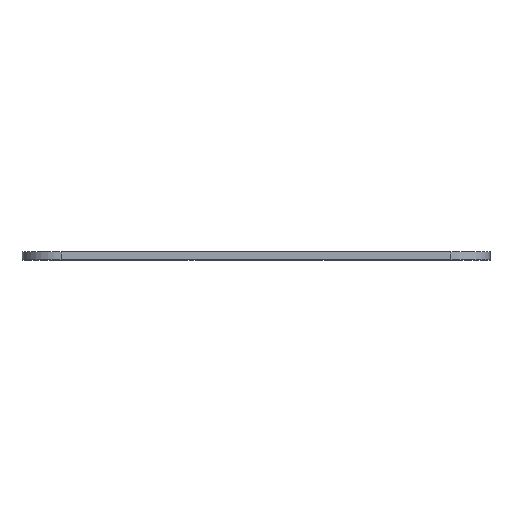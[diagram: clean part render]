
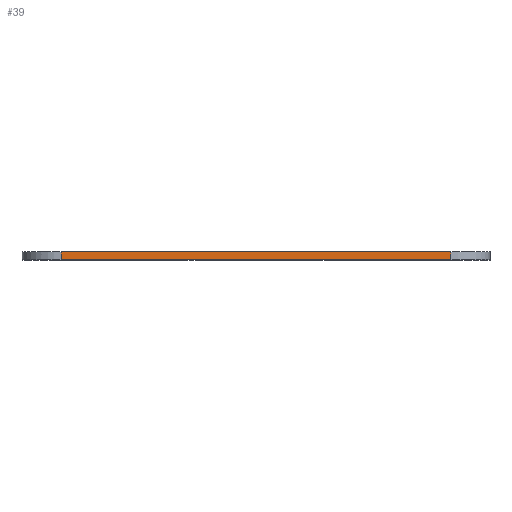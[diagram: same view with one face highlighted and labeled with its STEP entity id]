
A CAD part, top view. The second image highlights one B-rep face of the part: STEP entity #39.
In plain terms, the highlighted planar face has unit normal (0, 0, 1).
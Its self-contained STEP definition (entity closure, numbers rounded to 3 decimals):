
#20 = CARTESIAN_POINT ( 'NONE',  ( 0., 0., 0. ) ) ;
#39 = ADVANCED_FACE ( 'NONE', ( #314 ), #568, .F. ) ;
#44 = DIRECTION ( 'NONE',  ( 0., 0., -1. ) ) ;
#102 = EDGE_CURVE ( 'NONE', #521, #333, #356, .T. ) ;
#132 = CARTESIAN_POINT ( 'NONE',  ( 50., 10., 0. ) ) ;
#140 = DIRECTION ( 'NONE',  ( -1., 0., 0. ) ) ;
#180 = VECTOR ( 'NONE', #1202, 1000. ) ;
#184 = DIRECTION ( 'NONE',  ( 0., -1., 0. ) ) ;
#215 = VECTOR ( 'NONE', #776, 1000. ) ;
#291 = LINE ( 'NONE', #585, #180 ) ;
#314 = FACE_OUTER_BOUND ( 'NONE', #1253, .T. ) ;
#333 = VERTEX_POINT ( 'NONE', #1125 ) ;
#356 = LINE ( 'NONE', #1186, #667 ) ;
#505 = EDGE_CURVE ( 'NONE', #333, #1314, #968, .T. ) ;
#521 = VERTEX_POINT ( 'NONE', #132 ) ;
#527 = AXIS2_PLACEMENT_3D ( 'NONE', #1180, #44, #140 ) ;
#542 = VECTOR ( 'NONE', #184, 1000. ) ;
#561 = DIRECTION ( 'NONE',  ( 0., -1., 0. ) ) ;
#567 = ORIENTED_EDGE ( 'NONE', *, *, #102, .T. ) ;
#568 = PLANE ( 'NONE',  #527 ) ;
#585 = CARTESIAN_POINT ( 'NONE',  ( 0., 10., 0. ) ) ;
#633 = ORIENTED_EDGE ( 'NONE', *, *, #802, .F. ) ;
#667 = VECTOR ( 'NONE', #561, 1000. ) ;
#668 = ORIENTED_EDGE ( 'NONE', *, *, #1305, .F. ) ;
#714 = CARTESIAN_POINT ( 'NONE',  ( 550., 10., 0. ) ) ;
#776 = DIRECTION ( 'NONE',  ( 1., 0., 0. ) ) ;
#802 = EDGE_CURVE ( 'NONE', #1165, #1314, #1163, .T. ) ;
#811 = ORIENTED_EDGE ( 'NONE', *, *, #505, .T. ) ;
#884 = CARTESIAN_POINT ( 'NONE',  ( 550., 0., 0. ) ) ;
#968 = LINE ( 'NONE', #20, #215 ) ;
#1084 = CARTESIAN_POINT ( 'NONE',  ( 550., 10., 0. ) ) ;
#1125 = CARTESIAN_POINT ( 'NONE',  ( 50., 0., 0. ) ) ;
#1163 = LINE ( 'NONE', #714, #542 ) ;
#1165 = VERTEX_POINT ( 'NONE', #1084 ) ;
#1180 = CARTESIAN_POINT ( 'NONE',  ( 0., 10., 0. ) ) ;
#1186 = CARTESIAN_POINT ( 'NONE',  ( 50., 10., 0. ) ) ;
#1202 = DIRECTION ( 'NONE',  ( 1., 0., 0. ) ) ;
#1253 = EDGE_LOOP ( 'NONE', ( #811, #633, #668, #567 ) ) ;
#1305 = EDGE_CURVE ( 'NONE', #521, #1165, #291, .T. ) ;
#1314 = VERTEX_POINT ( 'NONE', #884 ) ;
